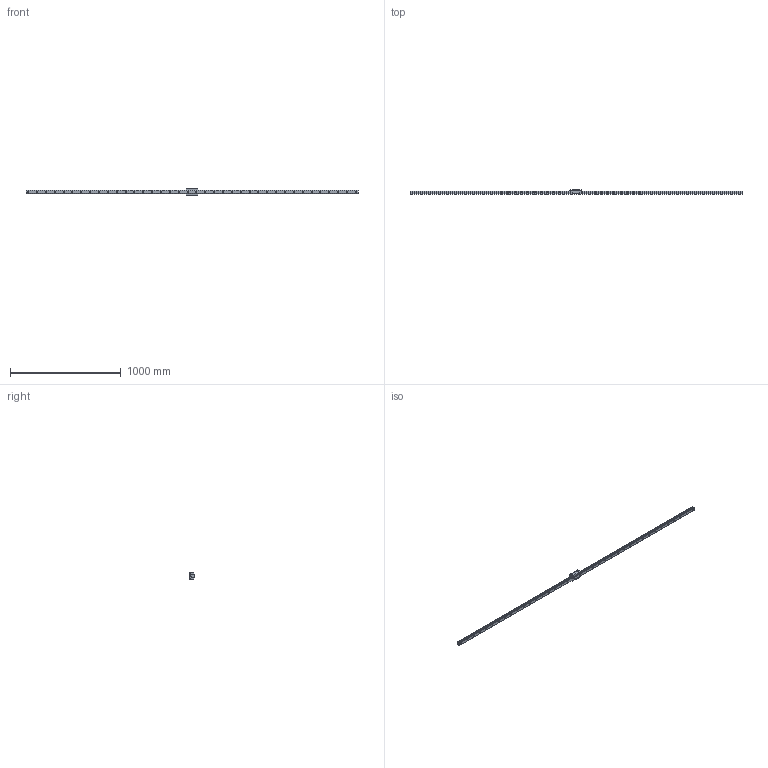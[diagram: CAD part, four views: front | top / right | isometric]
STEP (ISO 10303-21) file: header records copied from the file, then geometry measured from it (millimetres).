
FILE_DESCRIPTION(/* description */ ('STEP AP214'),/* implementation_level */ '2;1');
FILE_NAME(/* name */ 'HDR30V1SS-3000L_G20_0_B-M6F_1448-95_0_0_01',/* time_stamp */ '2023-06-30T13:00:42+02:00',/* author */ ('License CC BY-ND 4.0'),/* organization */ ('CADENAS'),/* preprocessor_version */ 'ST-DEVELOPER v19.3',/* originating_system */ 'PARTsolutions',/* authorisation */ ' ');
FILE_SCHEMA (('AUTOMOTIVE_DESIGN {1 0 10303 214 3 1 1}'));
Length unit declared in the file: millimetre
Products named in the file (4): HDR30V1SS-3000L_G20_0_B-M6F_1448-95_0_0_01; hsr_ftht_B-M6F_grease_nipple_joint; HDR30VSSB-M6F1 Slider; HDR30V1300020 Rail
Assembly tree (3 placements, depth 2):
  HDR30V1SS-3000L_G20_0_B-M6F_1448-95_0_0_01
    hsr_ftht_B-M6F_grease_nipple_joint
    HDR30VSSB-M6F1 Slider
    HDR30V1300020 Rail
Bounding box: 3000 x 42 x 60 mm (x, y, z)
Volume: 1951173.1 mm3; surface area: 404986.7 mm2
Topology: 3 solids, 3 shells, 332 faces, 814 edges, 531 vertices
Faces by surface type: plane 166, cylinder 136, cone 25, sphere 3, torus 2
Full cylindrical faces by diameter (mm): 4.917 x2, 5.2 x4, 6 x1, 6.647 x6, 8 x1, 9 x38, 14 x38
Entity records: 9459 total; most frequent: CARTESIAN_POINT 1647, DIRECTION 1634, ORIENTED_EDGE 1372, EDGE_CURVE 686, AXIS2_PLACEMENT_3D 636, FACE_BOUND 573, EDGE_LOOP 565, VERTEX_POINT 525
